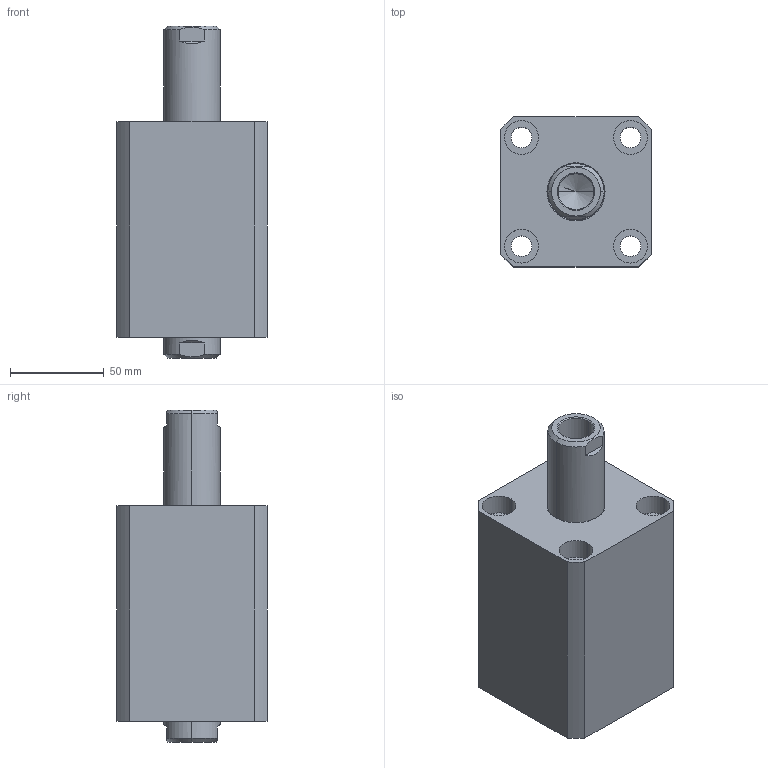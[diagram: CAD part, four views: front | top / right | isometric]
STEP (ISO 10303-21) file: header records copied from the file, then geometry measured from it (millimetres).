
FILE_DESCRIPTION (( 'STEP AP203' ), '1' );
FILE_NAME ('CHTB-SW50-40N.STEP', '2018-05-21T06:05:49', ( '' ), ( '' ), 'SwSTEP 2.0', 'SolidWorks 2015', '' );
FILE_SCHEMA (( 'CONFIG_CONTROL_DESIGN' ));
Length unit declared in the file: millimetre
Products named in the file (4): ヶ裔; CHTB-SW50-40N; 活塞杆SW50-40N; 掛极SW50-40N
Assembly tree (3 placements, depth 2):
  CHTB-SW50-40N
    掛极SW50-40N
    活塞杆SW50-40N
    ヶ裔
Bounding box: 80 x 80 x 177 mm (x, y, z)
Volume: 635143.4 mm3; surface area: 123687.8 mm2
Topology: 3 solids, 3 shells, 225 faces, 528 edges, 331 vertices
Faces by surface type: cylinder 118, plane 46, cone 33, torus 24, bspline 4
Entity records: 9698 total; most frequent: CARTESIAN_POINT 4235, DIRECTION 1104, ORIENTED_EDGE 1040, EDGE_CURVE 520, AXIS2_PLACEMENT_3D 462, VERTEX_POINT 331, EDGE_LOOP 271, CIRCLE 235
